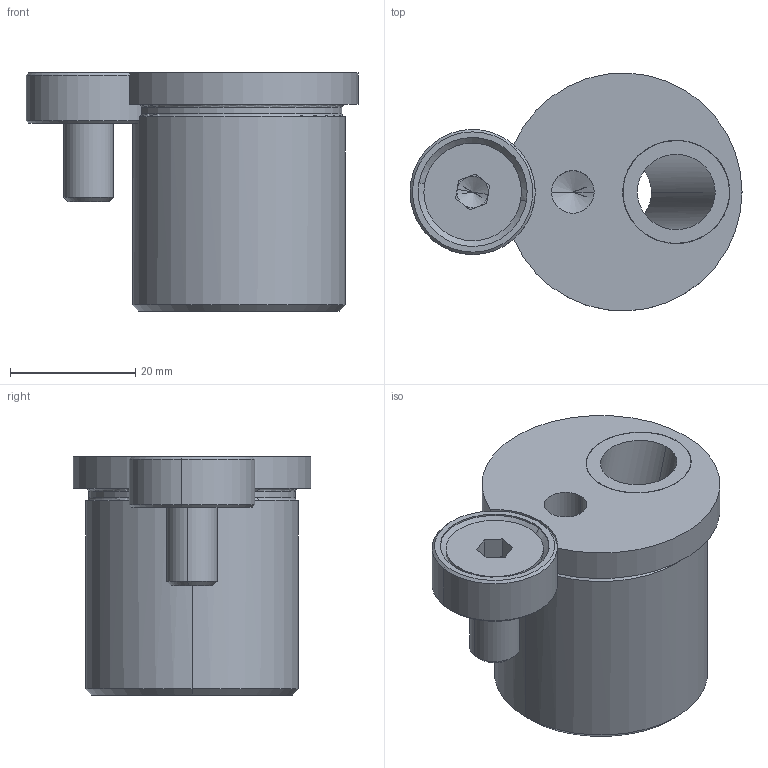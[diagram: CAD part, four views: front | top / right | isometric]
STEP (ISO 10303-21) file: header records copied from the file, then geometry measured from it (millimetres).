
FILE_DESCRIPTION (( 'STEP AP214' ), '1' );
FILE_NAME ('CI3438GR-15.STEP', '2014-03-06T11:58:49', ( '' ), ( '' ), 'SwSTEP 2.0', 'SolidWorks 2014', '' );
FILE_SCHEMA (( 'AUTOMOTIVE_DESIGN' ));
Length unit declared in the file: millimetre
Products named in the file (6): CI3438GR-15; 3CASQCI3438GR-15; 8CI3438GR-15_CI.3438GR-15; 9TS2008M8; TS2008M8; Socket Countersunk Head Screw_DIN_DIN 7991 - M8 x 20 --- 11.8C
Assembly tree (5 placements, depth 3):
  CI3438GR-15
    8CI3438GR-15_CI.3438GR-15
    3CASQCI3438GR-15
    TS2008M8
      9TS2008M8
      Socket Countersunk Head Screw_DIN_DIN 7991 - M8 x 20 --- 11.8C
Bounding box: 53 x 37.98 x 38 mm (x, y, z)
Volume: 34086.4 mm3; surface area: 13673.5 mm2
Topology: 4 solids, 4 shells, 80 faces, 174 edges, 104 vertices
Faces by surface type: cylinder 32, plane 26, cone 18, torus 4
Entity records: 2469 total; most frequent: CARTESIAN_POINT 427, DIRECTION 409, ORIENTED_EDGE 340, EDGE_CURVE 170, AXIS2_PLACEMENT_3D 166, VERTEX_POINT 104, EDGE_LOOP 92, ADVANCED_FACE 80
